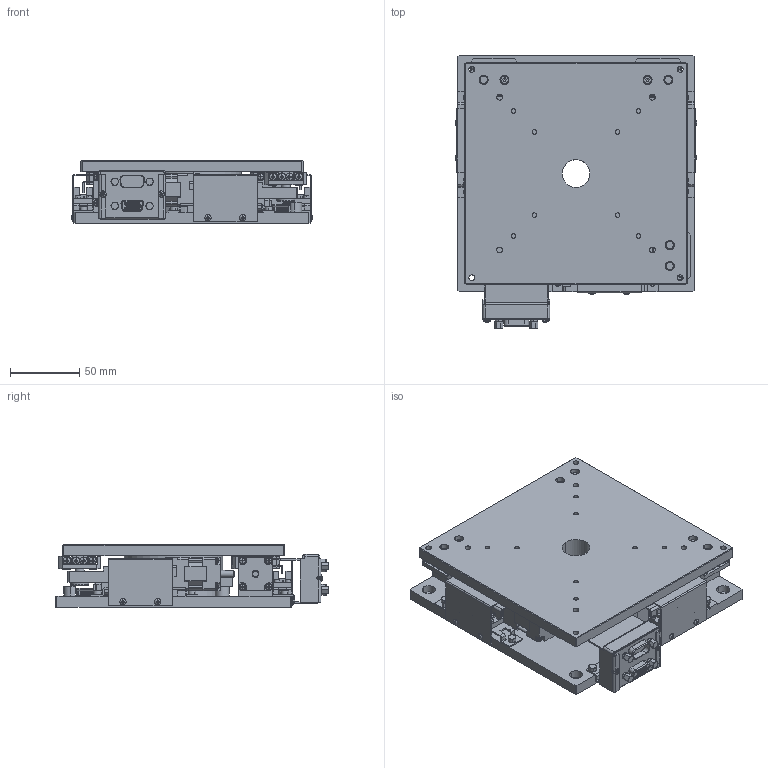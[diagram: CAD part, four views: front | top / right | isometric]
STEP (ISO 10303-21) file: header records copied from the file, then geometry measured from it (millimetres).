
FILE_DESCRIPTION (( 'STEP AP214' ), '1' );
FILE_NAME ('NAF3C-16K00P_.STEP', '2020-12-21T07:23:57', ( 'hst101l' ), ( 'Microsoft' ), 'SwSTEP 2.0', 'SolidWorks 2016', '' );
FILE_SCHEMA (( 'AUTOMOTIVE_DESIGN' ));
Length unit declared in the file: millimetre
Products named in the file (1): NAF3C-16K00P_
Bounding box: 173.87 x 196.42 x 45 mm (x, y, z)
Volume: 736904.7 mm3; surface area: 227429.8 mm2
Topology: 1 solids, 1 shells, 4301 faces, 11926 edges, 7606 vertices
Faces by surface type: plane 2527, cylinder 946, cone 525, torus 196, sphere 64, bspline 43
Entity records: 140004 total; most frequent: CARTESIAN_POINT 28884, ORIENTED_EDGE 23788, DIRECTION 23106, EDGE_CURVE 11894, AXIS2_PLACEMENT_3D 8083, VERTEX_POINT 7606, VECTOR 6940, LINE 6940
